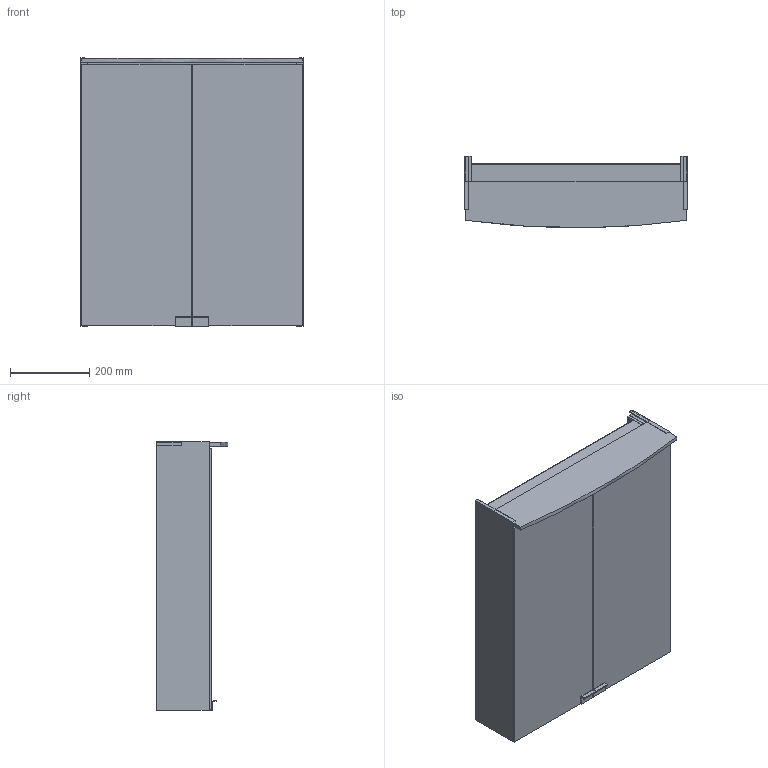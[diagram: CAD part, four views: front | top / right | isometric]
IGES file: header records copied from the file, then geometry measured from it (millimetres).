
Global section: file name: 500258; native system: Autodesk Inventor 2018; preprocessor: unknown; author: JANAN; date: 20200113.154559; units: millimetre
Bounding box: 560 x 179.72 x 677 mm (x, y, z)
Volume: 10191538 mm3; surface area: 2575993.2 mm2
Topology: 3 solids, 3 shells, 90 faces, 250 edges, 166 vertices
Faces by surface type: bspline 90
